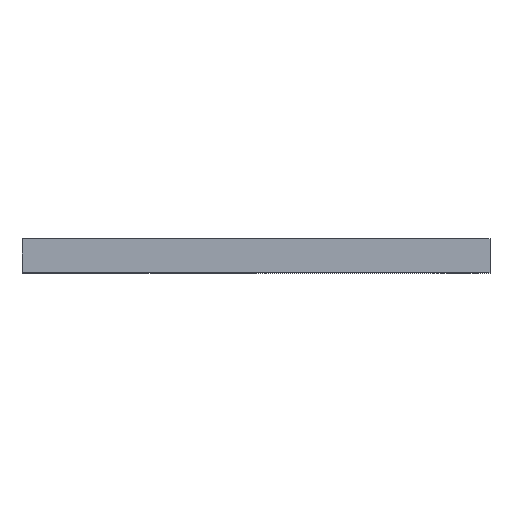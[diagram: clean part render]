
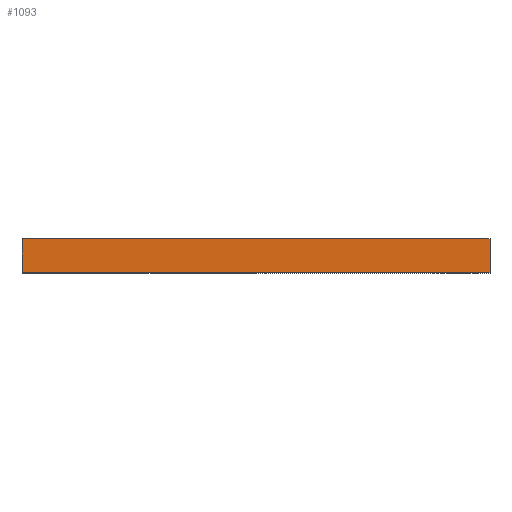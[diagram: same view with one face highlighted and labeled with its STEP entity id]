
A CAD part, top view. The second image highlights one B-rep face of the part: STEP entity #1093.
In plain terms, the highlighted planar face has unit normal (0, 0, 1).
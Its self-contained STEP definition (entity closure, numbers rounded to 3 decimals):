
#16 = CARTESIAN_POINT ( 'NONE',  ( -247.85, 36., 272.85 ) ) ;
#28 = VERTEX_POINT ( 'NONE', #657 ) ;
#61 = CARTESIAN_POINT ( 'NONE',  ( 247.85, 36., 272.85 ) ) ;
#102 = DIRECTION ( 'NONE',  ( 1., 0., 0. ) ) ;
#120 = VERTEX_POINT ( 'NONE', #840 ) ;
#131 = FACE_OUTER_BOUND ( 'NONE', #1134, .T. ) ;
#148 = EDGE_CURVE ( 'NONE', #28, #340, #651, .T. ) ;
#206 = LINE ( 'NONE', #61, #306 ) ;
#267 = CARTESIAN_POINT ( 'NONE',  ( -247.85, 36., 272.85 ) ) ;
#306 = VECTOR ( 'NONE', #655, 1000. ) ;
#340 = VERTEX_POINT ( 'NONE', #1179 ) ;
#346 = VECTOR ( 'NONE', #927, 1000. ) ;
#392 = DIRECTION ( 'NONE',  ( 0., 0., -1. ) ) ;
#397 = DIRECTION ( 'NONE',  ( -1., 0., 0. ) ) ;
#424 = ORIENTED_EDGE ( 'NONE', *, *, #525, .T. ) ;
#489 = ORIENTED_EDGE ( 'NONE', *, *, #148, .F. ) ;
#525 = EDGE_CURVE ( 'NONE', #809, #120, #878, .T. ) ;
#612 = CARTESIAN_POINT ( 'NONE',  ( -247.85, 36., 272.85 ) ) ;
#636 = EDGE_CURVE ( 'NONE', #340, #120, #206, .T. ) ;
#651 = LINE ( 'NONE', #16, #949 ) ;
#655 = DIRECTION ( 'NONE',  ( 0., -1., 0. ) ) ;
#657 = CARTESIAN_POINT ( 'NONE',  ( -247.85, 36., 272.85 ) ) ;
#748 = CARTESIAN_POINT ( 'NONE',  ( -247.85, 0., 272.85 ) ) ;
#784 = CARTESIAN_POINT ( 'NONE',  ( -247.85, 0., 272.85 ) ) ;
#809 = VERTEX_POINT ( 'NONE', #748 ) ;
#840 = CARTESIAN_POINT ( 'NONE',  ( 247.85, 0., 272.85 ) ) ;
#865 = ORIENTED_EDGE ( 'NONE', *, *, #636, .F. ) ;
#878 = LINE ( 'NONE', #784, #1141 ) ;
#927 = DIRECTION ( 'NONE',  ( 0., -1., 0. ) ) ;
#949 = VECTOR ( 'NONE', #102, 1000. ) ;
#984 = DIRECTION ( 'NONE',  ( 1., 0., 0. ) ) ;
#1018 = EDGE_CURVE ( 'NONE', #28, #809, #1166, .T. ) ;
#1069 = ORIENTED_EDGE ( 'NONE', *, *, #1018, .T. ) ;
#1090 = PLANE ( 'NONE',  #1103 ) ;
#1093 = ADVANCED_FACE ( 'NONE', ( #131 ), #1090, .F. ) ;
#1103 = AXIS2_PLACEMENT_3D ( 'NONE', #267, #392, #397 ) ;
#1134 = EDGE_LOOP ( 'NONE', ( #424, #865, #489, #1069 ) ) ;
#1141 = VECTOR ( 'NONE', #984, 1000. ) ;
#1166 = LINE ( 'NONE', #612, #346 ) ;
#1179 = CARTESIAN_POINT ( 'NONE',  ( 247.85, 36., 272.85 ) ) ;
